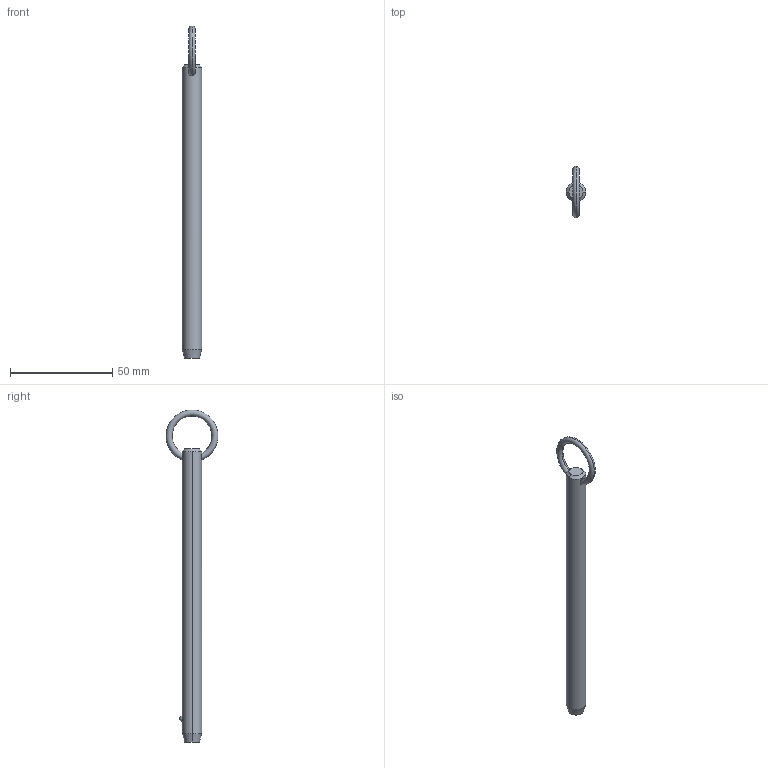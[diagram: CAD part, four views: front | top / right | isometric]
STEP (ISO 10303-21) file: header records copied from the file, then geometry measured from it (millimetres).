
FILE_DESCRIPTION (( 'STEP AP203' ), '1' );
FILE_NAME ('P1250.037-490.step', '2019-07-29T20:12:18', ( '' ), ( '' ), 'SwSTEP 2.0', 'SolidWorks 2017', '' );
FILE_SCHEMA (( 'CONFIG_CONTROL_DESIGN' ));
Length unit declared in the file: millimetre
Products named in the file (1): P1250.037-490
Bounding box: 9.52 x 25.39 x 162.6 mm (x, y, z)
Volume: 10569.2 mm3; surface area: 4935.5 mm2
Topology: 1 solids, 1 shells, 12 faces, 28 edges, 17 vertices
Faces by surface type: cone 4, torus 2, sphere 2, cylinder 2, plane 2
Entity records: 523 total; most frequent: CARTESIAN_POINT 190, DIRECTION 56, ORIENTED_EDGE 48, AXIS2_PLACEMENT_3D 25, EDGE_CURVE 24, VERTEX_POINT 15, EDGE_LOOP 15, ADVANCED_FACE 12
